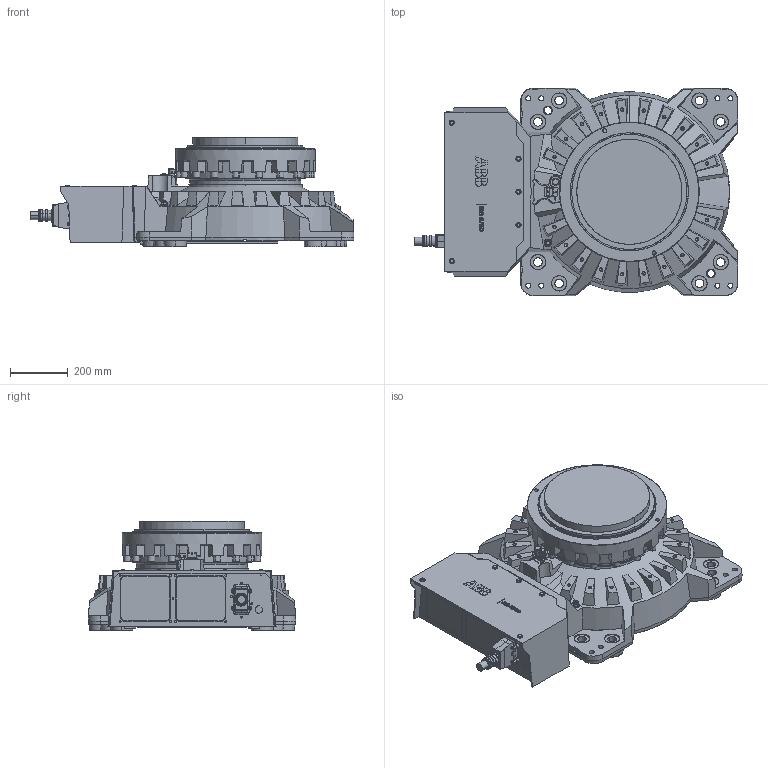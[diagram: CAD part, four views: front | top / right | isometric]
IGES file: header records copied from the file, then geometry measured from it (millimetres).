
Start section: SolidWorks IGES file using analytic representation for surfaces
Global section: file name: C:\Users\SEAMSTO1\OneDrive - ABB\PT\Macro\IGES\IRB6760-MH3_200kg-320_OC_00_IGES_J\IRB6760_All_OC_00_BASE_CAD.igs; native system: SolidWorks 2024; preprocessor: SolidWorks 2024; author: SEAMSTO1; date: 250930.151515; units: millimetre
Bounding box: 1124.5 x 720 x 378.5 mm (x, y, z)
Surface area: 3019788.7 mm2 (no closed solid volume)
Topology: 0 solids, 0 shells, 1519 faces, 21072 edges, 21028 vertices
Faces by surface type: bspline 853, revolution 666
